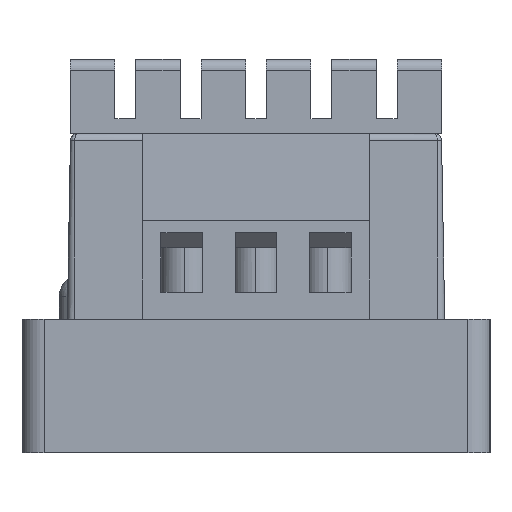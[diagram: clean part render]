
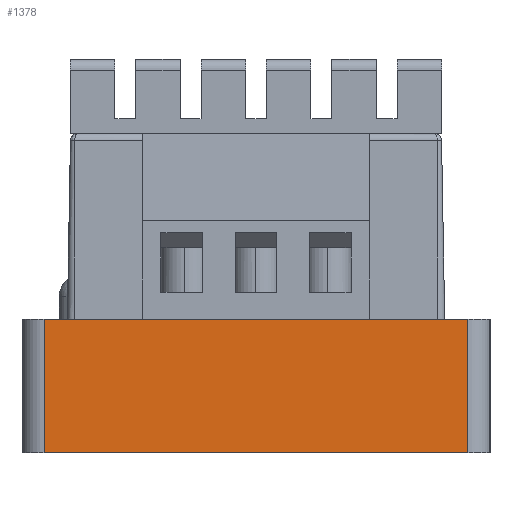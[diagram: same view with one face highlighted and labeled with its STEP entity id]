
A CAD part, left-side view. The second image highlights one B-rep face of the part: STEP entity #1378.
In plain terms, the highlighted planar face has unit normal (-1, 0, 0).
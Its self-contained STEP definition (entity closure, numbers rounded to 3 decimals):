
#1025=PLANE('',#8353);
#1378=ADVANCED_FACE('',(#1853),#1025,.F.);
#1853=FACE_OUTER_BOUND('',#2233,.T.);
#2233=EDGE_LOOP('',(#4594,#4595,#4596,#4597));
#2737=LINE('',#11410,#3463);
#2738=LINE('',#11413,#3464);
#2739=LINE('',#11415,#3465);
#2740=LINE('',#11417,#3466);
#3463=VECTOR('',#9419,1.);
#3464=VECTOR('',#9420,1.);
#3465=VECTOR('',#9421,1.);
#3466=VECTOR('',#9422,1.);
#4594=ORIENTED_EDGE('',*,*,#6948,.F.);
#4595=ORIENTED_EDGE('',*,*,#6949,.T.);
#4596=ORIENTED_EDGE('',*,*,#6950,.T.);
#4597=ORIENTED_EDGE('',*,*,#6951,.T.);
#6184=VERTEX_POINT('',#11411);
#6185=VERTEX_POINT('',#11412);
#6186=VERTEX_POINT('',#11414);
#6187=VERTEX_POINT('',#11416);
#6948=EDGE_CURVE('',#6184,#6185,#2737,.T.);
#6949=EDGE_CURVE('',#6184,#6186,#2738,.T.);
#6950=EDGE_CURVE('',#6186,#6187,#2739,.T.);
#6951=EDGE_CURVE('',#6187,#6185,#2740,.T.);
#8353=AXIS2_PLACEMENT_3D('',#11418,#9423,#9424);
#9419=DIRECTION('',(0.,-1.,0.));
#9420=DIRECTION('',(0.,0.,-1.));
#9421=DIRECTION('',(0.,-1.,0.));
#9422=DIRECTION('',(0.,0.,1.));
#9423=DIRECTION('',(1.,0.,0.));
#9424=DIRECTION('',(0.,-1.,0.));
#11410=CARTESIAN_POINT('',(-38.,-15.75,0.));
#11411=CARTESIAN_POINT('',(-38.,14.25,0.));
#11412=CARTESIAN_POINT('',(-38.,-14.25,0.));
#11413=CARTESIAN_POINT('',(-38.,14.25,0.));
#11414=CARTESIAN_POINT('',(-38.,14.25,-9.));
#11415=CARTESIAN_POINT('',(-38.,-15.75,-9.));
#11416=CARTESIAN_POINT('',(-38.,-14.25,-9.));
#11417=CARTESIAN_POINT('',(-38.,-14.25,0.));
#11418=CARTESIAN_POINT('',(-38.,-15.75,0.));
